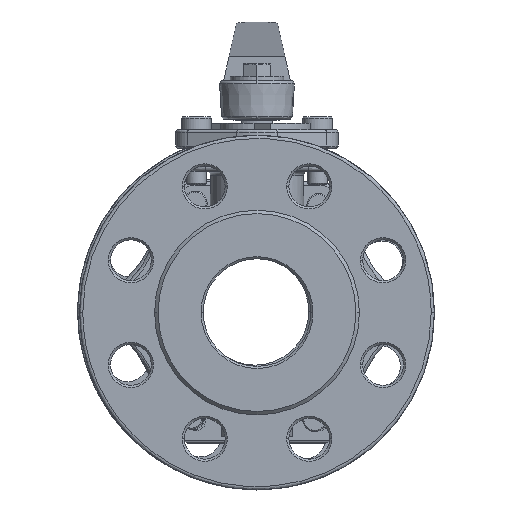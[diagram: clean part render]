
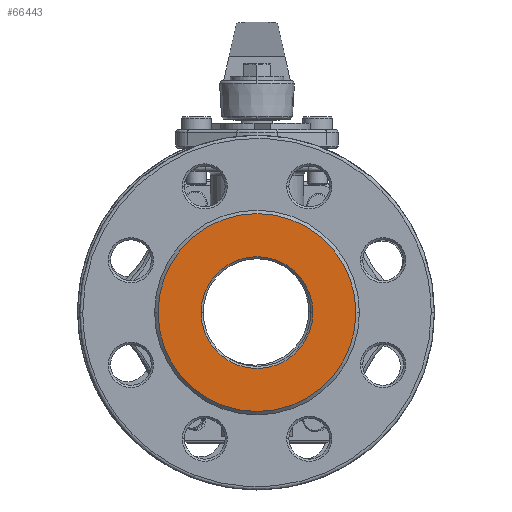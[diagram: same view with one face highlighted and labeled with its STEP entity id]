
A CAD part, left-side view. The second image highlights one B-rep face of the part: STEP entity #66443.
In plain terms, the highlighted planar face has unit normal (-1, 0, 0).
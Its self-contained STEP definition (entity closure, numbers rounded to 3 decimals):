
#11072 = EDGE_CURVE('',#11073,#11075,#11077,.T.);
#11073 = VERTEX_POINT('',#11074);
#11074 = CARTESIAN_POINT('',(0.,-46.386,-1.495));
#11075 = VERTEX_POINT('',#11076);
#11076 = CARTESIAN_POINT('',(0.,45.614,-1.495));
#11077 = SURFACE_CURVE('',#11078,(#11083,#11095),.PCURVE_S1.);
#11078 = CIRCLE('',#11079,46.);
#11079 = AXIS2_PLACEMENT_3D('',#11080,#11081,#11082);
#11080 = CARTESIAN_POINT('',(0.,-0.386,-1.495));
#11081 = DIRECTION('',(-1.,0.,0.));
#11082 = DIRECTION('',(0.,1.,0.));
#11083 = PCURVE('',#11084,#11089);
#11084 = CONICAL_SURFACE('',#11085,46.,0.785);
#11085 = AXIS2_PLACEMENT_3D('',#11086,#11087,#11088);
#11086 = CARTESIAN_POINT('',(0.,-0.386,-1.495));
#11087 = DIRECTION('',(1.,0.,0.));
#11088 = DIRECTION('',(-0.,1.,0.));
#11089 = DEFINITIONAL_REPRESENTATION('',(#11090),#11094);
#11090 = LINE('',#11091,#11092);
#11091 = CARTESIAN_POINT('',(6.283,0.));
#11092 = VECTOR('',#11093,1.);
#11093 = DIRECTION('',(-1.,0.));
#11094 = ( GEOMETRIC_REPRESENTATION_CONTEXT(2) 
PARAMETRIC_REPRESENTATION_CONTEXT() REPRESENTATION_CONTEXT('2D SPACE',''
  ) );
#11095 = PCURVE('',#11096,#11101);
#11096 = PLANE('',#11097);
#11097 = AXIS2_PLACEMENT_3D('',#11098,#11099,#11100);
#11098 = CARTESIAN_POINT('',(0.,-46.938,-48.047));
#11099 = DIRECTION('',(1.,0.,0.));
#11100 = DIRECTION('',(-0.,1.,0.));
#11101 = DEFINITIONAL_REPRESENTATION('',(#11102),#11110);
#11102 = ( BOUNDED_CURVE() B_SPLINE_CURVE(2,(#11103,#11104,#11105,#11106
    ,#11107,#11108,#11109),.UNSPECIFIED.,.T.,.F.) 
B_SPLINE_CURVE_WITH_KNOTS((1,2,2,2,2,1),(-2.094,0.,
    2.094,4.189,6.283,8.378),
.UNSPECIFIED.) CURVE() GEOMETRIC_REPRESENTATION_ITEM() 
RATIONAL_B_SPLINE_CURVE((1.,0.5,1.,0.5,1.,0.5,1.)) REPRESENTATION_ITEM(
  '') );
#11103 = CARTESIAN_POINT('',(92.552,46.552));
#11104 = CARTESIAN_POINT('',(92.552,-33.122));
#11105 = CARTESIAN_POINT('',(23.552,6.715));
#11106 = CARTESIAN_POINT('',(-45.448,46.552));
#11107 = CARTESIAN_POINT('',(23.552,86.389));
#11108 = CARTESIAN_POINT('',(92.552,126.226));
#11109 = CARTESIAN_POINT('',(92.552,46.552));
#11110 = ( GEOMETRIC_REPRESENTATION_CONTEXT(2) 
PARAMETRIC_REPRESENTATION_CONTEXT() REPRESENTATION_CONTEXT('2D SPACE',''
  ) );
#11128 = CONICAL_SURFACE('',#11129,46.,0.785);
#11129 = AXIS2_PLACEMENT_3D('',#11130,#11131,#11132);
#11130 = CARTESIAN_POINT('',(0.,-0.386,-1.495));
#11131 = DIRECTION('',(1.,0.,0.));
#11132 = DIRECTION('',(-0.,1.,0.));
#11701 = VERTEX_POINT('',#11702);
#11702 = CARTESIAN_POINT('',(0.,-26.386,-1.495));
#11709 = CONICAL_SURFACE('',#11710,25.,0.785);
#11710 = AXIS2_PLACEMENT_3D('',#11711,#11712,#11713);
#11711 = CARTESIAN_POINT('',(1.,-0.386,-1.495));
#11712 = DIRECTION('',(-1.,0.,0.));
#11713 = DIRECTION('',(-0.,-1.,0.));
#11721 = CONICAL_SURFACE('',#11722,25.,0.785);
#11722 = AXIS2_PLACEMENT_3D('',#11723,#11724,#11725);
#11723 = CARTESIAN_POINT('',(1.,-0.386,-1.495));
#11724 = DIRECTION('',(-1.,0.,0.));
#11725 = DIRECTION('',(-0.,-1.,0.));
#11733 = EDGE_CURVE('',#11734,#11701,#11736,.T.);
#11734 = VERTEX_POINT('',#11735);
#11735 = CARTESIAN_POINT('',(0.,25.614,-1.495));
#11736 = SURFACE_CURVE('',#11737,(#11742,#11749),.PCURVE_S1.);
#11737 = CIRCLE('',#11738,26.);
#11738 = AXIS2_PLACEMENT_3D('',#11739,#11740,#11741);
#11739 = CARTESIAN_POINT('',(0.,-0.386,-1.495));
#11740 = DIRECTION('',(-1.,0.,0.));
#11741 = DIRECTION('',(-0.,-1.,0.));
#11742 = PCURVE('',#11709,#11743);
#11743 = DEFINITIONAL_REPRESENTATION('',(#11744),#11748);
#11744 = LINE('',#11745,#11746);
#11745 = CARTESIAN_POINT('',(0.,1.));
#11746 = VECTOR('',#11747,1.);
#11747 = DIRECTION('',(1.,0.));
#11748 = ( GEOMETRIC_REPRESENTATION_CONTEXT(2) 
PARAMETRIC_REPRESENTATION_CONTEXT() REPRESENTATION_CONTEXT('2D SPACE',''
  ) );
#11749 = PCURVE('',#11096,#11750);
#11750 = DEFINITIONAL_REPRESENTATION('',(#11751),#11759);
#11751 = ( BOUNDED_CURVE() B_SPLINE_CURVE(2,(#11752,#11753,#11754,#11755
    ,#11756,#11757,#11758),.UNSPECIFIED.,.T.,.F.) 
B_SPLINE_CURVE_WITH_KNOTS((1,2,2,2,2,1),(-2.094,0.,
    2.094,4.189,6.283,8.378),
.UNSPECIFIED.) CURVE() GEOMETRIC_REPRESENTATION_ITEM() 
RATIONAL_B_SPLINE_CURVE((1.,0.5,1.,0.5,1.,0.5,1.)) REPRESENTATION_ITEM(
  '') );
#11752 = CARTESIAN_POINT('',(20.552,46.552));
#11753 = CARTESIAN_POINT('',(20.552,91.585));
#11754 = CARTESIAN_POINT('',(59.552,69.069));
#11755 = CARTESIAN_POINT('',(98.552,46.552));
#11756 = CARTESIAN_POINT('',(59.552,24.035));
#11757 = CARTESIAN_POINT('',(20.552,1.519));
#11758 = CARTESIAN_POINT('',(20.552,46.552));
#11759 = ( GEOMETRIC_REPRESENTATION_CONTEXT(2) 
PARAMETRIC_REPRESENTATION_CONTEXT() REPRESENTATION_CONTEXT('2D SPACE',''
  ) );
#64907 = EDGE_CURVE('',#11075,#11073,#64908,.T.);
#64908 = SURFACE_CURVE('',#64909,(#64914,#64921),.PCURVE_S1.);
#64909 = CIRCLE('',#64910,46.);
#64910 = AXIS2_PLACEMENT_3D('',#64911,#64912,#64913);
#64911 = CARTESIAN_POINT('',(0.,-0.386,-1.495));
#64912 = DIRECTION('',(-1.,0.,0.));
#64913 = DIRECTION('',(0.,1.,0.));
#64914 = PCURVE('',#11128,#64915);
#64915 = DEFINITIONAL_REPRESENTATION('',(#64916),#64920);
#64916 = LINE('',#64917,#64918);
#64917 = CARTESIAN_POINT('',(6.283,0.));
#64918 = VECTOR('',#64919,1.);
#64919 = DIRECTION('',(-1.,0.));
#64920 = ( GEOMETRIC_REPRESENTATION_CONTEXT(2) 
PARAMETRIC_REPRESENTATION_CONTEXT() REPRESENTATION_CONTEXT('2D SPACE',''
  ) );
#64921 = PCURVE('',#11096,#64922);
#64922 = DEFINITIONAL_REPRESENTATION('',(#64923),#64931);
#64923 = ( BOUNDED_CURVE() B_SPLINE_CURVE(2,(#64924,#64925,#64926,#64927
    ,#64928,#64929,#64930),.UNSPECIFIED.,.T.,.F.) 
B_SPLINE_CURVE_WITH_KNOTS((1,2,2,2,2,1),(-2.094,0.,
    2.094,4.189,6.283,8.378),
.UNSPECIFIED.) CURVE() GEOMETRIC_REPRESENTATION_ITEM() 
RATIONAL_B_SPLINE_CURVE((1.,0.5,1.,0.5,1.,0.5,1.)) REPRESENTATION_ITEM(
  '') );
#64924 = CARTESIAN_POINT('',(92.552,46.552));
#64925 = CARTESIAN_POINT('',(92.552,-33.122));
#64926 = CARTESIAN_POINT('',(23.552,6.715));
#64927 = CARTESIAN_POINT('',(-45.448,46.552));
#64928 = CARTESIAN_POINT('',(23.552,86.389));
#64929 = CARTESIAN_POINT('',(92.552,126.226));
#64930 = CARTESIAN_POINT('',(92.552,46.552));
#64931 = ( GEOMETRIC_REPRESENTATION_CONTEXT(2) 
PARAMETRIC_REPRESENTATION_CONTEXT() REPRESENTATION_CONTEXT('2D SPACE',''
  ) );
#66443 = ADVANCED_FACE('',(#66444,#66473),#11096,.F.);
#66444 = FACE_BOUND('',#66445,.T.);
#66445 = EDGE_LOOP('',(#66446,#66472));
#66446 = ORIENTED_EDGE('',*,*,#66447,.F.);
#66447 = EDGE_CURVE('',#11701,#11734,#66448,.T.);
#66448 = SURFACE_CURVE('',#66449,(#66454,#66465),.PCURVE_S1.);
#66449 = CIRCLE('',#66450,26.);
#66450 = AXIS2_PLACEMENT_3D('',#66451,#66452,#66453);
#66451 = CARTESIAN_POINT('',(0.,-0.386,-1.495));
#66452 = DIRECTION('',(-1.,0.,0.));
#66453 = DIRECTION('',(-0.,-1.,0.));
#66454 = PCURVE('',#11096,#66455);
#66455 = DEFINITIONAL_REPRESENTATION('',(#66456),#66464);
#66456 = ( BOUNDED_CURVE() B_SPLINE_CURVE(2,(#66457,#66458,#66459,#66460
    ,#66461,#66462,#66463),.UNSPECIFIED.,.T.,.F.) 
B_SPLINE_CURVE_WITH_KNOTS((1,2,2,2,2,1),(-2.094,0.,
    2.094,4.189,6.283,8.378),
.UNSPECIFIED.) CURVE() GEOMETRIC_REPRESENTATION_ITEM() 
RATIONAL_B_SPLINE_CURVE((1.,0.5,1.,0.5,1.,0.5,1.)) REPRESENTATION_ITEM(
  '') );
#66457 = CARTESIAN_POINT('',(20.552,46.552));
#66458 = CARTESIAN_POINT('',(20.552,91.585));
#66459 = CARTESIAN_POINT('',(59.552,69.069));
#66460 = CARTESIAN_POINT('',(98.552,46.552));
#66461 = CARTESIAN_POINT('',(59.552,24.035));
#66462 = CARTESIAN_POINT('',(20.552,1.519));
#66463 = CARTESIAN_POINT('',(20.552,46.552));
#66464 = ( GEOMETRIC_REPRESENTATION_CONTEXT(2) 
PARAMETRIC_REPRESENTATION_CONTEXT() REPRESENTATION_CONTEXT('2D SPACE',''
  ) );
#66465 = PCURVE('',#11721,#66466);
#66466 = DEFINITIONAL_REPRESENTATION('',(#66467),#66471);
#66467 = LINE('',#66468,#66469);
#66468 = CARTESIAN_POINT('',(0.,1.));
#66469 = VECTOR('',#66470,1.);
#66470 = DIRECTION('',(1.,0.));
#66471 = ( GEOMETRIC_REPRESENTATION_CONTEXT(2) 
PARAMETRIC_REPRESENTATION_CONTEXT() REPRESENTATION_CONTEXT('2D SPACE',''
  ) );
#66472 = ORIENTED_EDGE('',*,*,#11733,.F.);
#66473 = FACE_BOUND('',#66474,.T.);
#66474 = EDGE_LOOP('',(#66475,#66476));
#66475 = ORIENTED_EDGE('',*,*,#64907,.T.);
#66476 = ORIENTED_EDGE('',*,*,#11072,.T.);
